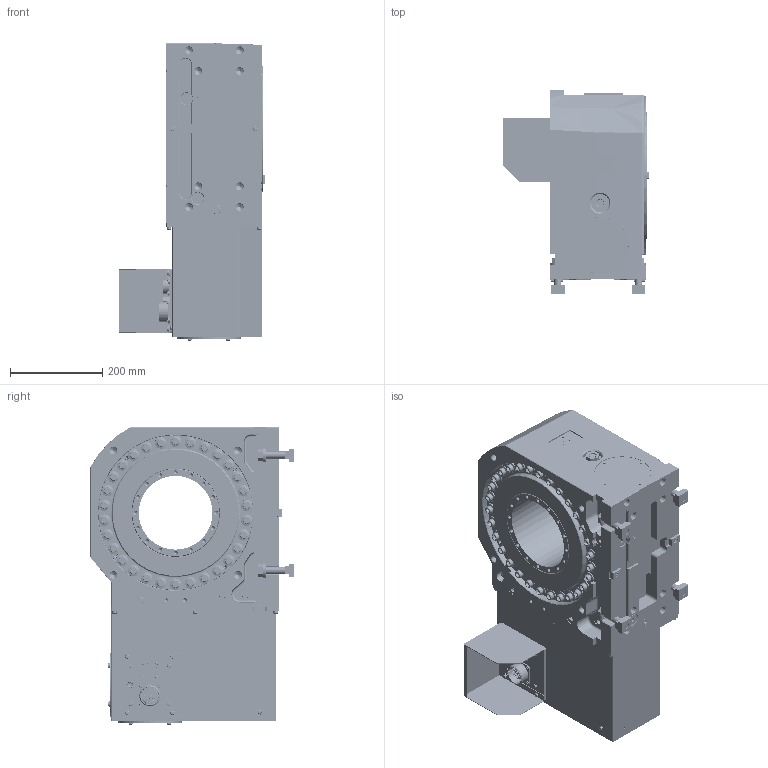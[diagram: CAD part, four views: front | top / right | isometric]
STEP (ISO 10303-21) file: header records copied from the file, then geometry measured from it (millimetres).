
FILE_DESCRIPTION (( 'STEP AP214' ), '1' );
FILE_NAME ('OUTSIDE_VIEW(61E2913920)MK350RHF--.STEP', '2021-10-14T22:00:43', ( '' ), ( '' ), 'SwSTEP 2.0', 'SolidWorks 2020', '' );
FILE_SCHEMA (( 'AUTOMOTIVE_DESIGN' ));
Length unit declared in the file: millimetre
Products named in the file (5): クランプクミタテ(61E488758); TABLE_MK350LH00; BODY_MK350RH00; OUTSIDE_VIEW(61E2913920)MK350RHF--; 儌乕僞乕働乕僗PAD_MK350RHF--A8
Assembly tree (7 placements, depth 2):
  OUTSIDE_VIEW(61E2913920)MK350RHF--
    BODY_MK350RH00
    TABLE_MK350LH00
    儌乕僞乕働乕僗PAD_MK350RHF--A8
    クランプクミタテ(61E488758)  x4
Bounding box: 317 x 441 x 645 mm (x, y, z)
Volume: 40271060.4 mm3; surface area: 1970298.3 mm2
Topology: 7 solids, 120 shells, 5470 faces, 13514 edges, 8481 vertices
Faces by surface type: plane 2887, cylinder 1452, cone 980, torus 99, sphere 39, bspline 13
Entity records: 162656 total; most frequent: CARTESIAN_POINT 32304, DIRECTION 27122, ORIENTED_EDGE 25960, EDGE_CURVE 12980, AXIS2_PLACEMENT_3D 9244, VECTOR 8634, LINE 8634, VERTEX_POINT 8281
